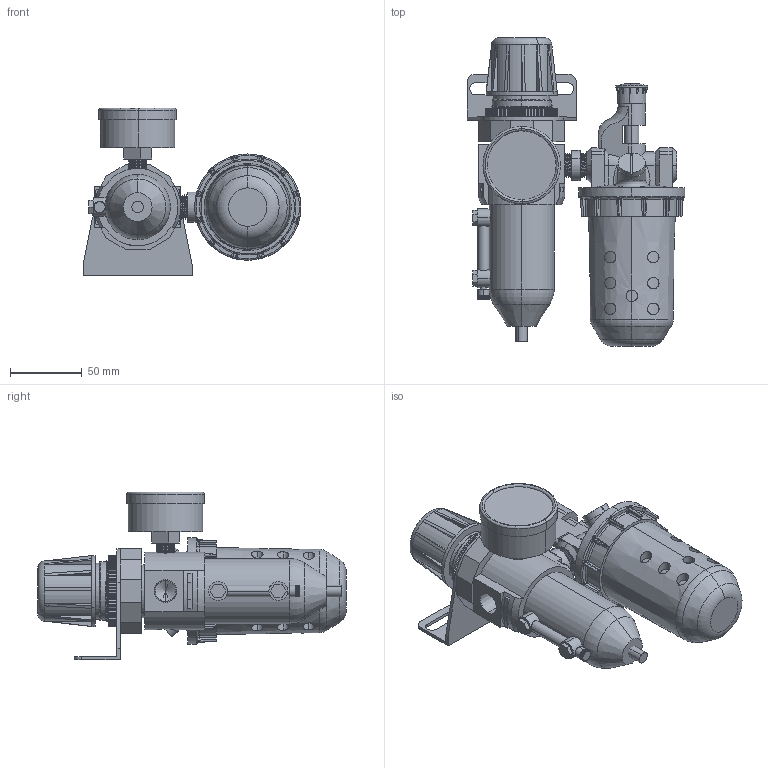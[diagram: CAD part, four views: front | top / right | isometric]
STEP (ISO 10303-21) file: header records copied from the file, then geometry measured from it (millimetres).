
FILE_DESCRIPTION (( 'STEP AP214' ), '1' );
FILE_NAME ('U658-03#YB#.STEP', '2016-02-16T07:00:13', ( '' ), ( '' ), 'SwSTEP 2.0', 'SolidWorks 2014', '' );
FILE_SCHEMA (( 'AUTOMOTIVE_DESIGN' ));
Length unit declared in the file: millimetre
Products named in the file (23): KWR10X51; 50-P-AD=1-4PT.SLDPRT; R010-3; D011W-6; L606-W-04-1; B011W-03#YGB#; D011W-4; L606-W-06-5; L606-W-06-3; 50-P-AD=1-4PT-2; U658-03#YB#; L606-W-06-4; KWSAR10Y57-1; R010-4; 50-P-AD=1-4PT-1; D011W-5; KWSAR10Y57
Assembly tree (24 placements, depth 5):
  U658-03#YB#
    B011W-03#YGB#
      (unnamed)
      50-P-AD=1-4PT.SLDPRT
        50-P-AD=1-4PT-1
        50-P-AD=1-4PT-2
      L606-W-06-5
      (unnamed)
        R010-3
        R010-4
        KWSAR10Y57
          KWSAR10Y57-1
          KWR10X51
      (unnamed)
        D011W-5  x2
        D011W-4
        D011W-6
    (unnamed)
      L606-W-06-4
      L606-W-06-3  x2
      L606-W-04-1
      (unnamed)
    (unnamed)
Bounding box: 151.75 x 215 x 117 mm (x, y, z)
Volume: 785706.9 mm3; surface area: 124212.3 mm2
Topology: 18 solids, 18 shells, 1213 faces, 3226 edges, 2053 vertices
Faces by surface type: plane 640, cylinder 287, bspline 113, cone 104, torus 39, sphere 30
Entity records: 53660 total; most frequent: CARTESIAN_POINT 21718, ORIENTED_EDGE 6296, DIRECTION 5553, EDGE_CURVE 3148, VERTEX_POINT 2025, AXIS2_PLACEMENT_3D 1927, VECTOR 1699, LINE 1699
